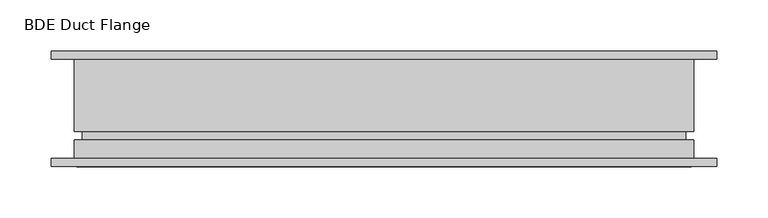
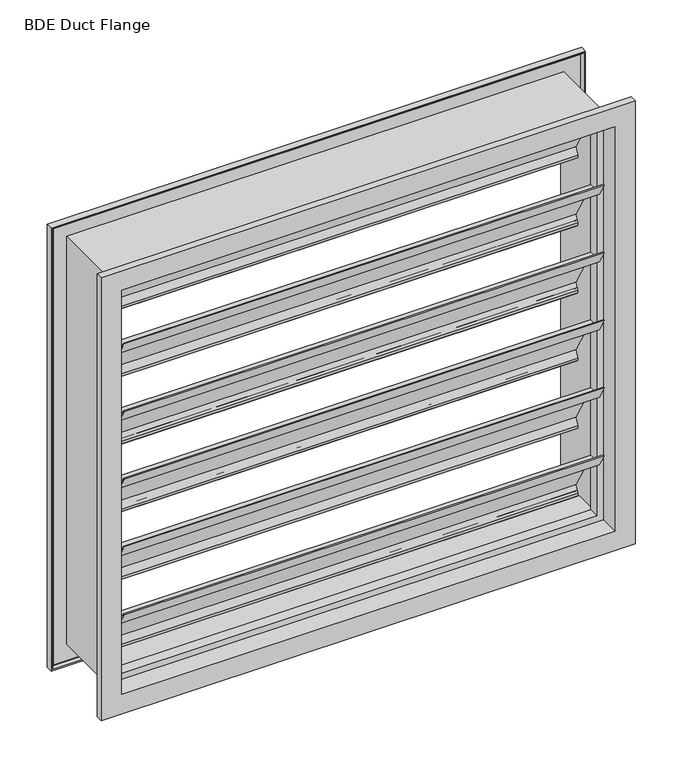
"""IFC4 building model written with IfcOpenShell, lengths in millimetres: air terminal geometry, DC_Holyoake_BackDraftDamper_BDE_DuctFlange_14 : BDE Duct Flange."""

import ifcopenshell
import ifcopenshell.guid

model = None  # the IFC model being written
_history = None  # IfcOwnerHistory: only IFC2X3 demands one
_inside = {}  # id of a spatial element -> (the spatial element, [elements in it])
_under = {}  # id of a project, library or spatial element -> (it, [spatial elements below it])
_declared = {}  # id of a project -> (the project, [libraries it declares])
_typed = {}  # id of a type object -> (the type object, [elements of that type])
_made_of = {}  # id of a material, layer set ... -> (it, [elements and type objects made of it])


def new_model(schema):
    """Start an empty IFC model of exactly this schema.

    Asked for "IFC4X3", IfcOpenShell would pick the latest addendum, in which some entities
    have other attributes; the version numbers below select the first issue.
    IFC2X3 requires an IfcOwnerHistory on every rooted entity: one is made here for all.
    """
    global model, _history
    if schema == "IFC4X3":
        model = ifcopenshell.file(schema_version=(4, 3, 0, 0))
    else:
        model = ifcopenshell.file(schema=schema)
    _inside.clear()
    _under.clear()
    _declared.clear()
    _typed.clear()
    _made_of.clear()
    _history = None
    if model.schema == "IFC2X3":
        org = make("IfcOrganization", Name="unknown")
        user = make(
            "IfcPersonAndOrganization",
            ThePerson=make("IfcPerson", FamilyName="unknown"),
            TheOrganization=org,
        )
        app = make(
            "IfcApplication",
            ApplicationDeveloper=org,
            Version="unknown",
            ApplicationFullName="unknown",
            ApplicationIdentifier="unknown",
        )
        _history = make(
            "IfcOwnerHistory",
            OwningUser=user,
            OwningApplication=app,
            ChangeAction="ADDED",
            CreationDate=0,
        )
    return model


def make(cls, **values):
    """One entity of the class cls with the attributes given. An attribute that is None is left unset."""
    return model.create_entity(
        cls, **{name: value for name, value in values.items() if value is not None}
    )


def rooted(cls, **values):
    """An entity with a GlobalId (a new one), such as an element, a storey or a relation."""
    return make(cls, GlobalId=ifcopenshell.guid.new(), OwnerHistory=_history, **values)


def si_unit(unit_type, name, prefix=None):
    """IfcSIUnit, for example si_unit("LENGTHUNIT", "METRE", prefix="MILLI")."""
    return make("IfcSIUnit", UnitType=unit_type, Prefix=prefix, Name=name)


def assignment(units):
    """IfcUnitAssignment: the units of a project."""
    return None if units is None else make("IfcUnitAssignment", Units=units)


def point(xyz):
    """IfcCartesianPoint."""
    return None if xyz is None else make("IfcCartesianPoint", Coordinates=xyz)


def direction(xyz):
    """IfcDirection."""
    return None if xyz is None else make("IfcDirection", DirectionRatios=xyz)


def frame(location, z_axis=None, x_axis=None):
    """IfcAxis2Placement3D, a coordinate frame: its origin and axes. An axis left out is left unset."""
    return make(
        "IfcAxis2Placement3D",
        Location=point(location),
        Axis=direction(z_axis),
        RefDirection=direction(x_axis),
    )


def frame_2d(location, x_axis=None):
    """IfcAxis2Placement2D, a coordinate frame in the plane: its origin and x axis."""
    return make(
        "IfcAxis2Placement2D", Location=point(location), RefDirection=direction(x_axis)
    )


def origin():
    """The frame at (0, 0, 0) with its axes left unset."""
    return frame((0.0, 0.0, 0.0))


def place(relative_to, where):
    """IfcLocalPlacement: puts the frame where relative to a parent placement (None: the world)."""
    return make(
        "IfcLocalPlacement", PlacementRelTo=relative_to, RelativePlacement=where
    )


def context(
    kind, dimensions, precision=None, world=None, true_north=None, identifier=None
):
    """IfcGeometricRepresentationContext, for example the 3D "Model" context."""
    return make(
        "IfcGeometricRepresentationContext",
        ContextIdentifier=identifier,
        ContextType=kind,
        CoordinateSpaceDimension=dimensions,
        Precision=precision,
        WorldCoordinateSystem=world,
        TrueNorth=true_north,
    )


def project(units=None, contexts=None):
    """IfcProject with its units and contexts."""
    return rooted(
        "IfcProject",
        Name="project",
        RepresentationContexts=contexts,
        UnitsInContext=assignment(units),
    )


def spatial(cls, under=None, at=None, **own):
    """A site, building, storey or space (cls), placed at a placement, below another one or the project."""
    s = rooted(cls, ObjectPlacement=at, **own)
    if under is not None:
        _under.setdefault(under.id(), (under, []))[1].append(s)
    return s


def polyline(points):
    """IfcPolyline through the points."""
    return make("IfcPolyline", Points=[point(p) for p in points])


def circle_curve(where, radius):
    """IfcCircle in the frame where."""
    return make("IfcCircle", Position=where, Radius=radius)


def trimmed(basis, trim1, trim2, sense, master):
    """IfcTrimmedCurve: the piece of a basis curve between two trims."""
    return make(
        "IfcTrimmedCurve",
        BasisCurve=basis,
        Trim1=trim1,
        Trim2=trim2,
        SenseAgreement=sense,
        MasterRepresentation=master,
    )


def segment(curve, same_sense, transition):
    """IfcCompositeCurveSegment."""
    return make(
        "IfcCompositeCurveSegment",
        Transition=transition,
        SameSense=same_sense,
        ParentCurve=curve,
    )


def composite_curve(segments, self_intersect=None):
    """IfcCompositeCurve: segments joined end to end."""
    return make("IfcCompositeCurve", Segments=segments, SelfIntersect=self_intersect)


def outline(outer, holes=None, kind="AREA"):
    """IfcArbitraryClosedProfileDef: a profile drawn as a closed curve; with holes, ...WithVoids."""
    if holes is None:
        return make("IfcArbitraryClosedProfileDef", ProfileType=kind, OuterCurve=outer)
    return make(
        "IfcArbitraryProfileDefWithVoids",
        ProfileType=kind,
        OuterCurve=outer,
        InnerCurves=holes,
    )


def extrude(swept, where, along, depth):
    """IfcExtrudedAreaSolid: the profile swept, set in the frame where, extruded along a direction by depth."""
    return make(
        "IfcExtrudedAreaSolid",
        SweptArea=swept,
        Position=where,
        ExtrudedDirection=direction(along),
        Depth=depth,
    )


def faces_of(points, faces, orient=None, outer=None):
    """IfcFace entities. A face is a list of loops; a loop is a list of indices into points, from 0.

    orient and outer hold one flag for each loop. By default every Orientation is true, the
    first loop of a face is its IfcFaceOuterBound and the others are IfcFaceBound.
    """
    made = []
    for i, loops in enumerate(faces):
        bounds = []
        for j, loop in enumerate(loops):
            is_outer = j == 0 if outer is None else outer[i][j]
            bounds.append(
                make(
                    "IfcFaceOuterBound" if is_outer else "IfcFaceBound",
                    Bound=make("IfcPolyLoop", Polygon=[points[k] for k in loop]),
                    Orientation=True if orient is None else orient[i][j],
                )
            )
        made.append(make("IfcFace", Bounds=bounds))
    return made


def faceted_brep(points, faces, orient=None, outer=None, voids=None):
    """IfcFacetedBrep: a solid bounded by flat faces; with voids (closed shells), ...WithVoids."""
    shared = [point(p) for p in points]
    hull = make("IfcClosedShell", CfsFaces=faces_of(shared, faces, orient, outer))
    if voids is None:
        return make("IfcFacetedBrep", Outer=hull)
    return make(
        "IfcFacetedBrepWithVoids",
        Outer=hull,
        Voids=[
            make(cls, CfsFaces=faces_of(shared, fs, o, b)) for cls, fs, o, b in voids
        ],
    )


def shape(context_of_items, identifier, shape_type, items):
    """IfcShapeRepresentation: the items that make up one representation, for example the "Body"."""
    return make(
        "IfcShapeRepresentation",
        ContextOfItems=context_of_items,
        RepresentationIdentifier=identifier,
        RepresentationType=shape_type,
        Items=items,
    )


def source(mapping_origin, context_of_items, identifier, shape_type, items):
    """IfcRepresentationMap: a shape defined once, which mapped items show again and again."""
    return make(
        "IfcRepresentationMap",
        MappingOrigin=mapping_origin,
        MappedRepresentation=shape(context_of_items, identifier, shape_type, items),
    )


def transform(
    local_origin,
    x_axis=None,
    y_axis=None,
    z_axis=None,
    scale=None,
    scale2=None,
    scale3=None,
    uniform=True,
):
    """IfcCartesianTransformationOperator3D, or its non-uniform kind. x_axis, y_axis, z_axis: its Axis1, 2, 3."""
    if uniform:
        return make(
            "IfcCartesianTransformationOperator3D",
            Axis1=direction(x_axis),
            Axis2=direction(y_axis),
            LocalOrigin=point(local_origin),
            Scale=scale,
            Axis3=direction(z_axis),
        )
    return make(
        "IfcCartesianTransformationOperator3DnonUniform",
        Axis1=direction(x_axis),
        Axis2=direction(y_axis),
        LocalOrigin=point(local_origin),
        Scale=scale,
        Axis3=direction(z_axis),
        Scale2=scale2,
        Scale3=scale3,
    )


def mapped(mapping_source, mapping_target):
    """IfcMappedItem: shows the shape of a source again, moved by a transform."""
    return make(
        "IfcMappedItem", MappingSource=mapping_source, MappingTarget=mapping_target
    )


def made_of(thing, what):
    """Note that an element or type object is made of a material, layer set ...; save() writes the relation."""
    if what is not None:
        _made_of.setdefault(what.id(), (what, []))[1].append(thing)
    return thing


def element(
    cls,
    number,
    at=None,
    inside=None,
    cuts=None,
    type_object=None,
    material=None,
    context=None,
    identifier="Body",
    shape_type=None,
    held_by="IfcProductDefinitionShape",
    body=None,
    shapes=None,
    **own,
):
    """One element of the class cls, such as IfcWall. Its Tag is "e" and its number.

    at: its placement. inside: the storey or other place that contains it. cuts: it is an
    opening in that element (IfcRelVoidsElement). A single representation is given by context,
    identifier, shape_type and body (its items); several are given by shapes. held_by: the class
    of the entity that holds the representations. save() writes the other relations.
    """
    e = rooted(cls, Tag="e%d" % number, ObjectPlacement=at, **own)
    if body is not None:
        shapes = [shape(context, identifier, shape_type, body)]
    if shapes is not None:
        e.Representation = make(held_by, Representations=shapes)
    if inside is not None:
        _inside.setdefault(inside.id(), (inside, []))[1].append(e)
    if cuts is not None:
        rooted(
            "IfcRelVoidsElement", RelatingBuildingElement=cuts, RelatedOpeningElement=e
        )
    if type_object is not None:
        _typed.setdefault(type_object.id(), (type_object, []))[1].append(e)
    return made_of(e, material)


def aggregate(whole, parts):
    """IfcRelAggregates: a whole, such as a stair, and the parts it consists of."""
    return rooted("IfcRelAggregates", RelatingObject=whole, RelatedObjects=parts)


def save(model, path):
    """Write the relations noted so far, then the file.

    IfcRelAggregates (storeys below a building ...), IfcRelContainedInSpatialStructure (elements
    in a storey), IfcRelDefinesByType, IfcRelAssociatesMaterial and IfcRelDeclares: one each for
    every whole, place, type object, material and project.
    """
    for whole, parts in _under.values():
        aggregate(whole, parts)
    for where, things in _inside.values():
        rooted(
            "IfcRelContainedInSpatialStructure",
            RelatedElements=things,
            RelatingStructure=where,
        )
    for kind, things in _typed.values():
        rooted("IfcRelDefinesByType", RelatedObjects=things, RelatingType=kind)
    for what, things in _made_of.values():
        rooted("IfcRelAssociatesMaterial", RelatedObjects=things, RelatingMaterial=what)
    for by, libraries in _declared.values():
        rooted("IfcRelDeclares", RelatingContext=by, RelatedDefinitions=libraries)
    model.write(path)


def plane_surface(at):
    """IfcPlane: the flat surface through the origin of the frame at, square to its z axis."""
    return make("IfcPlane", Position=at)


def cylinder_surface(at, radius):
    """IfcCylindricalSurface: all points at the distance radius from the z axis of the frame at."""
    return make("IfcCylindricalSurface", Position=at, Radius=radius)


def revolved_surface(curve, axis_point, axis_direction):
    """IfcSurfaceOfRevolution: the curve turned about the line through axis_point along axis_direction."""
    return make(
        "IfcSurfaceOfRevolution",
        SweptCurve=make("IfcArbitraryOpenProfileDef", ProfileType="CURVE", Curve=curve),
        AxisPosition=make("IfcAxis1Placement", Location=point(axis_point), Axis=direction(axis_direction)),
    )


def advanced_brep(points, edges, surfaces, faces):
    """IfcAdvancedBrep: a solid bounded by faces that lie on surfaces and meet in shared edges.

    An edge is (start, end): straight between two places in points (the first is 0);
    or (start, end, curve); or (start, end, curve, False) where it runs against its curve.
    A face is (place in surfaces, loops), or (place, loops, False) where it looks against
    its surface's normal. A loop lists edges by number (the first is 1), with a minus sign
    where the edge is run from its end to its start. The first loop is the outer one.
    """
    corners = [point(p) for p in points]
    vertices = [make("IfcVertexPoint", VertexGeometry=c) for c in corners]
    made = []
    for start, end, *more in edges:
        made.append(
            make(
                "IfcEdgeCurve",
                EdgeStart=vertices[start],
                EdgeEnd=vertices[end],
                EdgeGeometry=more[0] if more else make("IfcPolyline", Points=[corners[start], corners[end]]),
                SameSense=more[1] if len(more) > 1 else True,
            )
        )
    hull = []
    for where, loops, *sense in faces:
        bounds = []
        for j, loop in enumerate(loops):
            ring = [make("IfcOrientedEdge", EdgeElement=made[abs(k) - 1], Orientation=k > 0) for k in loop]
            bounds.append(
                make(
                    "IfcFaceOuterBound" if j == 0 else "IfcFaceBound",
                    Bound=make("IfcEdgeLoop", EdgeList=ring),
                    Orientation=True,
                )
            )
        hull.append(make("IfcAdvancedFace", Bounds=bounds, FaceSurface=surfaces[where], SameSense=sense[0] if sense else True))
    return make("IfcAdvancedBrep", Outer=make("IfcClosedShell", CfsFaces=hull))


def bde_duct_flange_009f4d56(model_context):
    return source(origin(), model_context, "Body", "SolidModel", [
        extrude(outline(composite_curve([segment(polyline([(57.0, 893.7833541), (53.9588922, 888.516001)]), True, "CONTINUOUS"), segment(trimmed(circle_curve(frame_2d((54.846125, 888.0523307)), 1.0010855), [point((53.9588922, 888.516001))], [point((54.3439638, 887.1863018))], True, "CARTESIAN"), True, "CONTINUOUS"), segment(trimmed(circle_curve(frame_2d((53.4433785, 884.22)), 3.1), [point((54.3439638, 887.1863018))], [point((52.2720582, 881.3498069))], False, "CARTESIAN"), True, "CONTINUOUS"), segment(polyline([(52.2720582, 881.3498069), (52.8010416, 882.6460231)]), True, "CONTINUOUS"), segment(trimmed(circle_curve(frame_2d((53.4433785, 884.22)), 1.7), [point((52.8010416, 882.6460231))], [point((51.8620974, 883.5958606))], True, "CARTESIAN"), True, "CONTINUOUS"), segment(polyline([(51.8620974, 883.5958606), (50.7586998, 882.67)]), True, "CONTINUOUS"), segment(trimmed(circle_curve(frame_2d((53.4433785, 884.22)), 3.1), [point((50.7586998, 882.67))], [point((50.7392674, 885.7358439))], False, "CARTESIAN"), True, "CONTINUOUS"), segment(polyline([(50.7392674, 885.7358439), (55.3834192, 893.7817623), (22.9866454, 949.8930288), (5.5506673, 949.8930288), (-4.99, 968.15), (-3.3734192, 968.15), (6.3589576, 951.2930288), (23.7949358, 951.2930288), (57.0, 893.7833541)]), True, "CONTINUOUS")], self_intersect=False)), frame((-167.0, 0.0, 0.0), z_axis=(1.0, 0.0, 0.0), x_axis=(0.0, 1.0, 0.0)), (0.0, 0.0, 1.0), 584.0),
        extrude(outline(composite_curve([segment(polyline([(57.0, 806.7533541), (53.9588922, 801.486001)]), True, "CONTINUOUS"), segment(trimmed(circle_curve(frame_2d((54.846125, 801.0223307)), 1.0010855), [point((53.9588922, 801.486001))], [point((54.3439638, 800.1563018))], True, "CARTESIAN"), True, "CONTINUOUS"), segment(trimmed(circle_curve(frame_2d((53.4433785, 797.19)), 3.1), [point((54.3439638, 800.1563018))], [point((52.2720582, 794.3198069))], False, "CARTESIAN"), True, "CONTINUOUS"), segment(polyline([(52.2720582, 794.3198069), (52.8010416, 795.6160231)]), True, "CONTINUOUS"), segment(trimmed(circle_curve(frame_2d((53.4433785, 797.19)), 1.7), [point((52.8010416, 795.6160231))], [point((51.8620974, 796.5658606))], True, "CARTESIAN"), True, "CONTINUOUS"), segment(polyline([(51.8620974, 796.5658606), (50.7586998, 795.64)]), True, "CONTINUOUS"), segment(trimmed(circle_curve(frame_2d((53.4433785, 797.19)), 3.1), [point((50.7586998, 795.64))], [point((50.7392674, 798.7058439))], False, "CARTESIAN"), True, "CONTINUOUS"), segment(polyline([(50.7392674, 798.7058439), (55.3834192, 806.7517623), (22.9866454, 862.8630288), (5.5506673, 862.8630288), (-4.99, 881.12), (-3.3734192, 881.12), (6.3589576, 864.2630288), (23.7949358, 864.2630288), (57.0, 806.7533541)]), True, "CONTINUOUS")], self_intersect=False)), frame((-167.0, 0.0, 0.0), z_axis=(1.0, 0.0, 0.0), x_axis=(0.0, 1.0, 0.0)), (0.0, 0.0, 1.0), 584.0),
        extrude(outline(composite_curve([segment(polyline([(57.0, 719.7233541), (53.9588922, 714.456001)]), True, "CONTINUOUS"), segment(trimmed(circle_curve(frame_2d((54.846125, 713.9923307)), 1.0010855), [point((53.9588922, 714.456001))], [point((54.3439638, 713.1263018))], True, "CARTESIAN"), True, "CONTINUOUS"), segment(trimmed(circle_curve(frame_2d((53.4433785, 710.16)), 3.1), [point((54.3439638, 713.1263018))], [point((52.2720582, 707.2898069))], False, "CARTESIAN"), True, "CONTINUOUS"), segment(polyline([(52.2720582, 707.2898069), (52.8010416, 708.5860231)]), True, "CONTINUOUS"), segment(trimmed(circle_curve(frame_2d((53.4433785, 710.16)), 1.7), [point((52.8010416, 708.5860231))], [point((51.8620974, 709.5358606))], True, "CARTESIAN"), True, "CONTINUOUS"), segment(polyline([(51.8620974, 709.5358606), (50.7586998, 708.61)]), True, "CONTINUOUS"), segment(trimmed(circle_curve(frame_2d((53.4433785, 710.16)), 3.1), [point((50.7586998, 708.61))], [point((50.7392674, 711.6758439))], False, "CARTESIAN"), True, "CONTINUOUS"), segment(polyline([(50.7392674, 711.6758439), (55.3834192, 719.7217623), (22.9866454, 775.8330288), (5.5506673, 775.8330288), (-4.99, 794.09), (-3.3734192, 794.09), (6.3589576, 777.2330288), (23.7949358, 777.2330288), (57.0, 719.7233541)]), True, "CONTINUOUS")], self_intersect=False)), frame((-167.0, 0.0, 0.0), z_axis=(1.0, 0.0, 0.0), x_axis=(0.0, 1.0, 0.0)), (0.0, 0.0, 1.0), 584.0),
        advanced_brep(
        [(-167.0, 57.0, 980.8133541), (-167.0, 53.9588922, 975.546001), (-167.0, 54.3439638, 974.2163018), (-167.0, 52.2720582, 968.3798069), (-167.0, 52.8010416, 969.6760231), (-167.0, 51.8620974, 970.6258606), (-167.0, 50.7586998, 969.7), (-167.0, 50.7392674, 972.7658439), (-167.0, 55.3834192, 980.8117623), (-167.0, 22.9866454, 1036.9230288), (-167.0, 24.5588291, 1037.0), (417.0, 22.9866454, 1036.9230288), (417.0, 55.3834192, 980.8117623), (417.0, 50.7392674, 972.7658439), (417.0, 50.7586998, 969.7), (417.0, 51.8620974, 970.6258606), (417.0, 52.8010416, 969.6760231), (417.0, 52.2720582, 968.3798069), (417.0, 54.3439638, 974.2163018), (417.0, 53.9588922, 975.546001), (417.0, 57.0, 980.8133541), (417.0, 24.5588291, 1037.0)],
        [
            (0, 1),
            (1, 2, circle_curve(frame((-167.0, 54.846125, 975.0823307), z_axis=(1.0, 0.0, 0.0), x_axis=(0.0, -1.0, 0.0)), 1.0010855)),
            (2, 3, circle_curve(frame((-167.0, 53.4433785, 971.25), z_axis=(-1.0, 0.0, 0.0), x_axis=(0.0, -1.0, 0.0)), 3.1)),
            (3, 4),
            (4, 5, circle_curve(frame((-167.0, 53.4433785, 971.25), z_axis=(1.0, 0.0, 0.0), x_axis=(0.0, -1.0, 0.0)), 1.7)),
            (5, 6),
            (6, 7, circle_curve(frame((-167.0, 53.4433785, 971.25), z_axis=(-1.0, 0.0, 0.0), x_axis=(0.0, -1.0, 0.0)), 3.1)),
            (7, 8),
            (8, 9),
            (9, 10),
            (10, 0),
            (11, 12),
            (12, 13),
            (13, 14, circle_curve(frame((417.0, 53.4433785, 971.25), z_axis=(1.0, 0.0, 0.0), x_axis=(0.0, -1.0, 0.0)), 3.1)),
            (14, 15),
            (15, 16, circle_curve(frame((417.0, 53.4433785, 971.25), z_axis=(-1.0, 0.0, 0.0), x_axis=(0.0, -1.0, 0.0)), 1.7)),
            (16, 17),
            (17, 18, circle_curve(frame((417.0, 53.4433785, 971.25), z_axis=(1.0, 0.0, 0.0), x_axis=(0.0, -1.0, 0.0)), 3.1)),
            (18, 19, circle_curve(frame((417.0, 54.846125, 975.0823307), z_axis=(-1.0, 0.0, 0.0), x_axis=(0.0, -1.0, 0.0)), 1.0010855)),
            (19, 20),
            (20, 21),
            (21, 11),
            (0, 20),
            (19, 1),
            (18, 2),
            (17, 3),
            (16, 4),
            (15, 5),
            (14, 6),
            (13, 7),
            (12, 8),
            (11, 9),
            (10, 21),
        ],
        [
            plane_surface(frame((-167.0, 57.0, 968.15), z_axis=(-1.0, 0.0, 0.0), x_axis=(0.0, 0.0, 1.0))),
            plane_surface(frame((417.0, 57.0, 968.15), z_axis=(1.0, 0.0, 0.0), x_axis=(0.0, 0.0, 1.0))),
            plane_surface(frame((-167.0, 57.0, 980.8133541), z_axis=(0.0, 0.8660254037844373, -0.5000000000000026), x_axis=(1.0, 0.0, 0.0))),
            revolved_surface(polyline([(417.0, 53.8450395, 975.0823307), (-167.0, 53.8450395, 975.0823307)]), (-167.0, 54.846125, 975.0823307), (1.0, 0.0, 0.0)),
            cylinder_surface(frame((-167.0, 53.4433785, 971.25), z_axis=(-1.0, 0.0, 0.0), x_axis=(0.0, -1.0, 0.0)), 3.1),
            plane_surface(frame((-167.0, 52.2720582, 968.3798069), z_axis=(0.0, -0.9258687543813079, 0.3778452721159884), x_axis=(1.0, 0.0, 0.0))),
            revolved_surface(polyline([(417.0, 51.7433785, 971.25), (-167.0, 51.7433785, 971.25)]), (-167.0, 53.4433785, 971.25), (1.0, 0.0, 0.0)),
            plane_surface(frame((-167.0, 51.8620974, 970.6258606), z_axis=(0.0, 0.6427876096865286, -0.7660444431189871), x_axis=(1.0, 0.0, 0.0))),
            plane_surface(frame((-167.0, 50.7392674, 972.7658439), z_axis=(0.0, -0.8660795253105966, 0.4999062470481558), x_axis=(1.0, 0.0, 0.0))),
            plane_surface(frame((-167.0, 55.3834192, 980.8117623), z_axis=(0.0, -0.8660192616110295, -0.5000106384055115), x_axis=(1.0, 0.0, 0.0))),
            plane_surface(frame((-167.0, 23.7949358, 1038.3230288), z_axis=(0.0, 0.8660134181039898, 0.5000207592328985), x_axis=(1.0, 0.0, 0.0))),
            plane_surface(frame((417.0, -5.0, 1037.0), z_axis=(0.0, 0.0, 1.0), x_axis=(-1.0, 0.0, 0.0))),
        ],
        [
            (0, [[1, 2, 3, 4, 5, 6, 7, 8, 9, 10, 11]]),
            (1, [[12, 13, 14, 15, 16, 17, 18, 19, 20, 21, 22]]),
            (2, [[-1, 23, -20, 24]]),
            (3, [[-2, -24, -19, 25]]),
            (4, [[-3, -25, -18, 26]]),
            (5, [[-4, -26, -17, 27]]),
            (6, [[-5, -27, -16, 28]]),
            (7, [[-6, -28, -15, 29]]),
            (4, [[-7, -29, -14, 30]]),
            (8, [[-8, -30, -13, 31]]),
            (9, [[-9, -31, -12, 32]]),
            (10, [[-23, -11, 33, -21]]),
            (11, [[-10, -32, -22, -33]]),
        ],
    ),
        extrude(outline(composite_curve([segment(polyline([(57.0, 632.6933541), (53.9588922, 627.426001)]), True, "CONTINUOUS"), segment(trimmed(circle_curve(frame_2d((54.846125, 626.9623307)), 1.0010855), [point((53.9588922, 627.426001))], [point((54.3439638, 626.0963018))], True, "CARTESIAN"), True, "CONTINUOUS"), segment(trimmed(circle_curve(frame_2d((53.4433785, 623.13)), 3.1), [point((54.3439638, 626.0963018))], [point((52.2720582, 620.2598069))], False, "CARTESIAN"), True, "CONTINUOUS"), segment(polyline([(52.2720582, 620.2598069), (52.8010416, 621.5560231)]), True, "CONTINUOUS"), segment(trimmed(circle_curve(frame_2d((53.4433785, 623.13)), 1.7), [point((52.8010416, 621.5560231))], [point((51.8620974, 622.5058606))], True, "CARTESIAN"), True, "CONTINUOUS"), segment(polyline([(51.8620974, 622.5058606), (50.7586998, 621.58)]), True, "CONTINUOUS"), segment(trimmed(circle_curve(frame_2d((53.4433785, 623.13)), 3.1), [point((50.7586998, 621.58))], [point((50.7392674, 624.6458439))], False, "CARTESIAN"), True, "CONTINUOUS"), segment(polyline([(50.7392674, 624.6458439), (55.3834192, 632.6917623), (22.9866454, 688.8030288), (5.5506673, 688.8030288), (-4.99, 707.06), (-3.3734192, 707.06), (6.3589576, 690.2030288), (23.7949358, 690.2030288), (57.0, 632.6933541)]), True, "CONTINUOUS")], self_intersect=False)), frame((-167.0, 0.0, 0.0), z_axis=(1.0, 0.0, 0.0), x_axis=(0.0, 1.0, 0.0)), (0.0, 0.0, 1.0), 584.0),
        extrude(outline(composite_curve([segment(polyline([(57.0, 545.6633541), (53.9588922, 540.396001)]), True, "CONTINUOUS"), segment(trimmed(circle_curve(frame_2d((54.846125, 539.9323307)), 1.0010855), [point((53.9588922, 540.396001))], [point((54.3439638, 539.0663018))], True, "CARTESIAN"), True, "CONTINUOUS"), segment(trimmed(circle_curve(frame_2d((53.4433785, 536.1)), 3.1), [point((54.3439638, 539.0663018))], [point((52.2720582, 533.2298069))], False, "CARTESIAN"), True, "CONTINUOUS"), segment(polyline([(52.2720582, 533.2298069), (52.8010416, 534.5260231)]), True, "CONTINUOUS"), segment(trimmed(circle_curve(frame_2d((53.4433785, 536.1)), 1.7), [point((52.8010416, 534.5260231))], [point((51.8620974, 535.4758606))], True, "CARTESIAN"), True, "CONTINUOUS"), segment(polyline([(51.8620974, 535.4758606), (50.7586998, 534.55)]), True, "CONTINUOUS"), segment(trimmed(circle_curve(frame_2d((53.4433785, 536.1)), 3.1), [point((50.7586998, 534.55))], [point((50.7392674, 537.6158439))], False, "CARTESIAN"), True, "CONTINUOUS"), segment(polyline([(50.7392674, 537.6158439), (55.3834192, 545.6617623), (22.9866454, 601.7730288), (5.5506673, 601.7730288), (-4.99, 620.03), (-3.3734192, 620.03), (6.3589576, 603.1730288), (23.7949358, 603.1730288), (57.0, 545.6633541)]), True, "CONTINUOUS")], self_intersect=False)), frame((-167.0, 0.0, 0.0), z_axis=(1.0, 0.0, 0.0), x_axis=(0.0, 1.0, 0.0)), (0.0, 0.0, 1.0), 584.0),
        faceted_brep([(425.0, -13.0, 525.0), (425.0, 10.5, 525.0), (-175.0, 10.5, 525.0), (-175.0, -13.0, 525.0), (450.0, -5.0, 500.0), (450.0, -13.0, 500.0), (-200.0, -13.0, 500.0), (-200.0, -5.0, 500.0), (445.9, -7.5, 504.1), (448.4, -5.0, 501.6), (-198.4, -5.0, 501.6), (-195.9, -7.5, 504.1), (448.4, -11.4, 501.6), (448.4, -7.5, 501.6), (-198.4, -7.5, 501.6), (-198.4, -11.4, 501.6), (427.5, 13.0, 522.5), (427.5, -11.4, 522.5), (-177.5, -11.4, 522.5), (-177.5, 13.0, 522.5), (419.5, 21.25, 530.5), (419.5, 13.0, 530.5), (-169.5, 13.0, 530.5), (-169.5, 21.25, 530.5), (427.5, 98.4, 522.5), (427.5, 21.25, 522.5), (-177.5, 21.25, 522.5), (-177.5, 98.4, 522.5), (448.4, 94.5, 501.6), (448.4, 98.4, 501.6), (-198.4, 98.4, 501.6), (-198.4, 94.5, 501.6), (448.4, 92.0, 501.6), (445.9, 94.5, 504.1), (-195.9, 94.5, 504.1), (-198.4, 92.0, 501.6), (450.0, 100.0, 500.0), (450.0, 92.0, 500.0), (-200.0, 92.0, 500.0), (-200.0, 100.0, 500.0), (425.0, 23.75, 525.0), (425.0, 100.0, 525.0), (-175.0, 100.0, 525.0), (-175.0, 23.75, 525.0), (417.0, 10.5, 533.0), (417.0, 23.75, 533.0), (-167.0, 23.75, 533.0), (-167.0, 10.5, 533.0), (-175.0, 10.5, 1045.0), (-175.0, -13.0, 1045.0), (-200.0, -13.0, 1070.0), (-200.0, -5.0, 1070.0), (-198.4, -5.0, 1068.4), (-195.9, -7.5, 1065.9), (-198.4, -7.5, 1068.4), (-198.4, -11.4, 1068.4), (-177.5, -11.4, 1047.5), (-177.5, 13.0, 1047.5), (-169.5, 13.0, 1039.5), (-169.5, 21.25, 1039.5), (-177.5, 21.25, 1047.5), (-177.5, 98.4, 1047.5), (-198.4, 98.4, 1068.4), (-198.4, 94.5, 1068.4), (-195.9, 94.5, 1065.9), (-198.4, 92.0, 1068.4), (-200.0, 92.0, 1070.0), (-200.0, 100.0, 1070.0), (-175.0, 100.0, 1045.0), (-175.0, 23.75, 1045.0), (-167.0, 23.75, 1037.0), (-167.0, 10.5, 1037.0), (425.0, 10.5, 1045.0), (425.0, -13.0, 1045.0), (450.0, -13.0, 1070.0), (450.0, -5.0, 1070.0), (448.4, -5.0, 1068.4), (445.9, -7.5, 1065.9), (448.4, -7.5, 1068.4), (448.4, -11.4, 1068.4), (427.5, -11.4, 1047.5), (427.5, 13.0, 1047.5), (419.5, 13.0, 1039.5), (419.5, 21.25, 1039.5), (427.5, 21.25, 1047.5), (427.5, 98.4, 1047.5), (448.4, 98.4, 1068.4), (448.4, 94.5, 1068.4), (445.9, 94.5, 1065.9), (448.4, 92.0, 1068.4), (450.0, 92.0, 1070.0), (450.0, 100.0, 1070.0), (425.0, 100.0, 1045.0), (425.0, 23.75, 1045.0), (417.0, 23.75, 1037.0), (417.0, 10.5, 1037.0)], [[[0, 1, 2, 3]], [[4, 5, 6, 7]], [[8, 9, 10, 11]], [[12, 13, 14, 15]], [[16, 17, 18, 19]], [[20, 21, 22, 23]], [[24, 25, 26, 27]], [[28, 29, 30, 31]], [[32, 33, 34, 35]], [[36, 37, 38, 39]], [[40, 41, 42, 43]], [[44, 45, 46, 47]], [[3, 2, 48, 49]], [[7, 6, 50, 51]], [[11, 10, 52, 53]], [[15, 14, 54, 55]], [[19, 18, 56, 57]], [[23, 22, 58, 59]], [[27, 26, 60, 61]], [[31, 30, 62, 63]], [[35, 34, 64, 65]], [[39, 38, 66, 67]], [[43, 42, 68, 69]], [[47, 46, 70, 71]], [[49, 48, 72, 73]], [[51, 50, 74, 75]], [[53, 52, 76, 77]], [[55, 54, 78, 79]], [[57, 56, 80, 81]], [[59, 58, 82, 83]], [[61, 60, 84, 85]], [[63, 62, 86, 87]], [[65, 64, 88, 89]], [[67, 66, 90, 91]], [[69, 68, 92, 93]], [[71, 70, 94, 95]], [[73, 72, 1, 0]], [[5, 74, 50, 6], [3, 49, 73, 0]], [[75, 74, 5, 4]], [[7, 51, 75, 4], [9, 76, 52, 10]], [[77, 76, 9, 8]], [[13, 78, 54, 14], [11, 53, 77, 8]], [[79, 78, 13, 12]], [[15, 55, 79, 12], [17, 80, 56, 18]], [[81, 80, 17, 16]], [[19, 57, 81, 16], [21, 82, 58, 22]], [[83, 82, 21, 20]], [[25, 84, 60, 26], [23, 59, 83, 20]], [[85, 84, 25, 24]], [[29, 86, 62, 30], [27, 61, 85, 24]], [[87, 86, 29, 28]], [[31, 63, 87, 28], [33, 88, 64, 34]], [[89, 88, 33, 32]], [[37, 90, 66, 38], [35, 65, 89, 32]], [[91, 90, 37, 36]], [[39, 67, 91, 36], [41, 92, 68, 42]], [[93, 92, 41, 40]], [[43, 69, 93, 40], [45, 94, 70, 46]], [[95, 94, 45, 44]], [[1, 72, 48, 2], [47, 71, 95, 44]]]),
    ])


if __name__ == "__main__":
    model = new_model("IFC4")
    model_context = context("Model", 3, world=origin())
    ifc_project = project(units=[si_unit("LENGTHUNIT", "METRE", prefix="MILLI")], contexts=[model_context])
    site = spatial("IfcSite", under=ifc_project)
    building = spatial("IfcBuilding", under=site)
    placement = place(None, origin())
    bde_duct_flange_shape = bde_duct_flange_009f4d56(model_context)
    element("IfcAirTerminal", 1, ObjectType="DC_Holyoake_BackDraftDamper_BDE_DuctFlange_14 : BDE Duct Flange", at=placement, inside=building, context=model_context, shape_type="MappedRepresentation", body=[
        mapped(bde_duct_flange_shape, transform((0.0, 0.0, 0.0), x_axis=(1.0, 0.0, 0.0), y_axis=(0.0, 1.0, 0.0), z_axis=(0.0, 0.0, 1.0))),
    ])
    save(model, "model.ifc")
